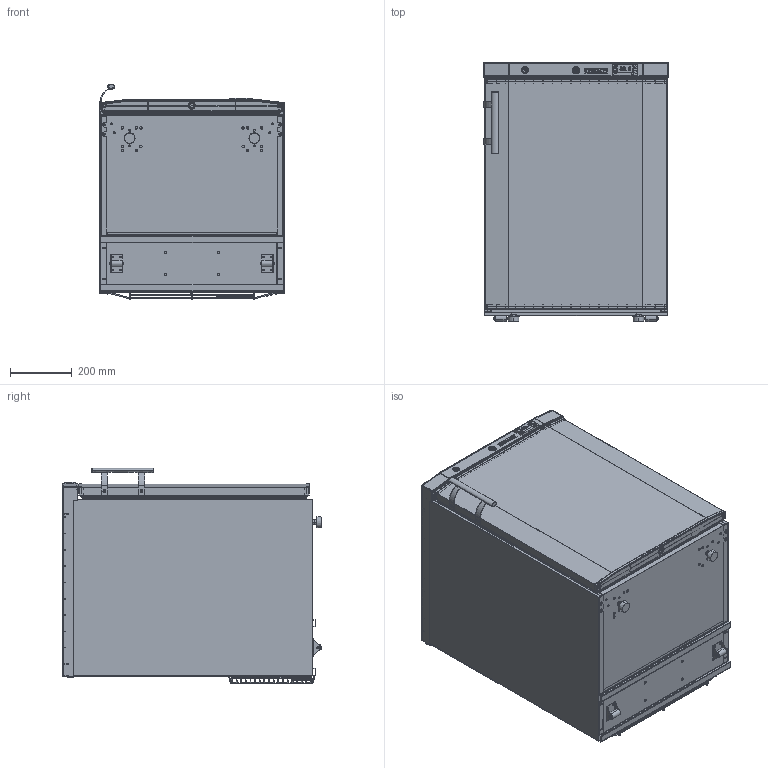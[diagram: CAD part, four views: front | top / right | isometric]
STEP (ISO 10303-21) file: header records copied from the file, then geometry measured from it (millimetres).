
FILE_DESCRIPTION (( 'STEP AP214' ), '1' );
FILE_NAME ('pres_CAP200LBA.STEP', '2024-12-26T09:41:35', ( '' ), ( '' ), 'SwSTEP 2.0', 'SolidWorks 2025', '' );
FILE_SCHEMA (( 'AUTOMOTIVE_DESIGN' ));
Length unit declared in the file: millimetre
Products named in the file (1): pres_CAP200LBA
Bounding box: 599.58 x 837 x 696.21 mm (x, y, z)
Volume: 4516662.7 mm3; surface area: 8676382.2 mm2
Topology: 62 solids, 67 shells, 6897 faces, 17703 edges, 10405 vertices
Faces by surface type: plane 3020, cylinder 2501, bspline 647, sphere 500, torus 137, cone 92
Entity records: 304991 total; most frequent: CARTESIAN_POINT 68974, ORIENTED_EDGE 34262, DIRECTION 31876, EDGE_CURVE 17131, AXIS2_PLACEMENT_3D 10825, VERTEX_POINT 10405, VECTOR 10226, LINE 10226
